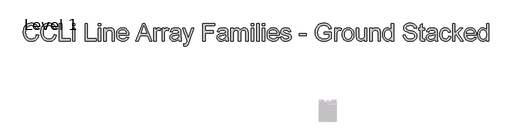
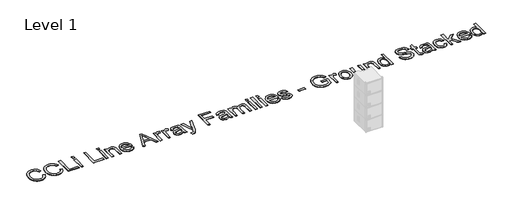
# One storey, part 18 of 31: 1 proxy.
"""IFC4 building model written with IfcOpenShell, lengths in millimetres."""

from ifc_helpers import new_model, si_unit, origin, origin_with_axes, place, context, project, spatial, polyline, outline, extrude, element, save

model = new_model("IFC4")

# Units and contexts
model_context = context("Model", 3, world=origin())
ifc_project = project(units=[si_unit("LENGTHUNIT", "METRE", prefix="MILLI")], contexts=[model_context])

# Site, building, storey
site = spatial("IfcSite", under=ifc_project)
building = spatial("IfcBuilding", under=site)
storey = spatial("IfcBuildingStorey", under=building, Name="Level 1", Elevation=0.0)

# Proxy
placement = place(None, origin())
element("IfcBuildingElementProxy", 1, Name="600mm Arial", ObjectType="600mm Arial", at=placement, inside=storey, context=model_context, shape_type="SweptSolid", body=[
    extrude(outline(polyline([(2002.9783305, -1457.1212893), (2078.3205631, -1476.5454586), (2063.4121452, -1523.3998292), (2043.5557146, -1564.3404968), (2018.751271, -1599.3674613), (1988.9988147, -1628.4807226), (1954.9697301, -1651.3675813), (1917.335402, -1667.7153374), (1876.0958304, -1677.5239911), (1831.2510151, -1680.7935424), (1785.3071525, -1678.3195359), (1743.8606472, -1670.8975167), (1706.9114993, -1658.5274846), (1674.4597088, -1641.2094397), (1646.0592188, -1619.2008993), (1621.2639723, -1592.7593809), (1600.0739694, -1561.8848845), (1582.48921, -1526.57741), (1568.6798396, -1488.3636677), (1558.8160036, -1448.770368), (1552.897702, -1407.7975108), (1550.9249348, -1365.4450961), (1553.1552194, -1320.0024726), (1559.8460732, -1277.5580874), (1570.9974962, -1238.1119405), (1586.6094884, -1201.6640318), (1606.3325618, -1168.8167682), (1629.8172287, -1140.1725563), (1657.063489, -1115.7313963), (1688.0713426, -1095.493288), (1721.7877275, -1079.6237785), (1757.1595813, -1068.2884145), (1794.1869041, -1061.4871961), (1832.8696959, -1059.2201233), (1875.9624731, -1062.1539822), (1915.4775979, -1070.955559), (1951.4150703, -1085.6248535), (1983.7748903, -1106.1618659), (2012.023629, -1132.0239702), (2035.6278576, -1162.6685404), (2054.5875759, -1198.0955765), (2068.902784, -1238.3050786), (1993.5605514, -1256.2577199), (1981.6963571, -1226.6294237), (1967.4409298, -1201.3145439), (1950.7942695, -1180.3130805), (1931.7563762, -1163.6250335), (1910.2168854, -1150.9101121), (1886.0654324, -1141.8280253), (1859.3020173, -1136.3787733), (1829.92664, -1134.5623559), (1796.1274817, -1136.5765098), (1765.216197, -1142.6189716), (1737.192786, -1152.6897412), (1712.0572487, -1166.7888187), (1690.1268833, -1184.2816076), (1671.7189879, -1204.5335114), (1656.8335627, -1227.5445302), (1645.4706076, -1253.314664), (1631.0680275, -1308.460175), (1626.2671674, -1365.2979433), (1631.9509443, -1434.9012168), (1639.0556653, -1466.1711864), (1649.0022747, -1495.0867112), (1661.951721, -1521.0729756), (1678.0649524, -1543.5551641), (1697.3419689, -1562.5332765), (1719.7827706, -1578.0073129), (1744.2975071, -1590.0140615), (1769.7963278, -1598.5903105), (1796.279233, -1603.7360599), (1823.7462224, -1605.4513097), (1856.5015156, -1603.1152591), (1886.6356495, -1596.1071071), (1914.1486242, -1584.4268537), (1939.0404397, -1568.074499), (1960.7224848, -1547.1236194), (1978.6061483, -1521.6477912), (1992.6914302, -1491.6470145), (2002.9783305, -1457.1212893)])), origin_with_axes(), (0.0, 0.0, 1.0), 5.0),
    extrude(outline(polyline([(2605.7161914, -1457.1212893), (2681.058424, -1476.5454586), (2666.1500061, -1523.3998292), (2646.2935755, -1564.3404968), (2621.4891319, -1599.3674613), (2591.7366756, -1628.4807226), (2557.707591, -1651.3675813), (2520.0732629, -1667.7153374), (2478.8336913, -1677.5239911), (2433.988876, -1680.7935424), (2388.0450134, -1678.3195359), (2346.5985081, -1670.8975167), (2309.6493602, -1658.5274846), (2277.1975697, -1641.2094397), (2248.7970797, -1619.2008993), (2224.0018332, -1592.7593809), (2202.8118303, -1561.8848845), (2185.2270709, -1526.57741), (2171.4177005, -1488.3636677), (2161.5538645, -1448.770368), (2155.6355629, -1407.7975108), (2153.6627957, -1365.4450961), (2155.8930803, -1320.0024726), (2162.5839341, -1277.5580874), (2173.7353571, -1238.1119405), (2189.3473492, -1201.6640318), (2209.0704227, -1168.8167682), (2232.5550896, -1140.1725563), (2259.8013499, -1115.7313963), (2290.8092035, -1095.493288), (2324.5255884, -1079.6237785), (2359.8974422, -1068.2884145), (2396.924765, -1061.4871961), (2435.6075568, -1059.2201233), (2478.700334, -1062.1539822), (2518.2154588, -1070.955559), (2554.1529312, -1085.6248535), (2586.5127512, -1106.1618659), (2614.7614899, -1132.0239702), (2638.3657185, -1162.6685404), (2657.3254368, -1198.0955765), (2671.6406449, -1238.3050786), (2596.2984123, -1256.2577199), (2584.434218, -1226.6294237), (2570.1787907, -1201.3145439), (2553.5321304, -1180.3130805), (2534.4942371, -1163.6250335), (2512.9547463, -1150.9101121), (2488.8032933, -1141.8280253), (2462.0398782, -1136.3787733), (2432.6645009, -1134.5623559), (2398.8653426, -1136.5765098), (2367.9540579, -1142.6189716), (2339.9306469, -1152.6897412), (2314.7951096, -1166.7888187), (2292.8647442, -1184.2816076), (2274.4568488, -1204.5335114), (2259.5714236, -1227.5445302), (2248.2084685, -1253.314664), (2233.8058884, -1308.460175), (2229.0050283, -1365.2979433), (2234.6888052, -1434.9012168), (2241.7935262, -1466.1711864), (2251.7401356, -1495.0867112), (2264.6895819, -1521.0729756), (2280.8028132, -1543.5551641), (2300.0798298, -1562.5332765), (2322.5206315, -1578.0073129), (2347.035368, -1590.0140615), (2372.5341887, -1598.5903105), (2399.0170939, -1603.7360599), (2426.4840833, -1605.4513097), (2459.2393765, -1603.1152591), (2489.3735104, -1596.1071071), (2516.8864851, -1584.4268537), (2541.7783006, -1568.074499), (2563.4603457, -1547.1236194), (2581.3440092, -1521.6477912), (2595.4292911, -1491.6470145), (2605.7161914, -1457.1212893)])), origin_with_axes(), (0.0, 0.0, 1.0), 5.0),
    extrude(outline(polyline([(2784.6539938, -1671.3757633), (2784.6539938, -1068.6379024), (2859.9962265, -1068.6379024), (2859.9962265, -1596.0335307), (3161.3651569, -1596.0335307), (3161.3651569, -1671.3757633), (2784.6539938, -1671.3757633)])), origin_with_axes(), (0.0, 0.0, 1.0), 5.0),
    extrude(outline(polyline([(3236.7073895, -1671.3757633), (3236.7073895, -1228.7401467), (3312.0496221, -1228.7401467), (3312.0496221, -1671.3757633), (3236.7073895, -1671.3757633)])), origin_with_axes(), (0.0, 0.0, 1.0), 5.0),
    extrude(outline(polyline([(3236.7073895, -1143.980135), (3236.7073895, -1068.6379024), (3312.0496221, -1068.6379024), (3312.0496221, -1143.980135), (3236.7073895, -1143.980135)])), origin_with_axes(), (0.0, 0.0, 1.0), 5.0),
    extrude(outline(polyline([(3669.925227, -1671.3757633), (3669.925227, -1068.6379024), (3745.2674596, -1068.6379024), (3745.2674596, -1596.0335307), (4046.6363901, -1596.0335307), (4046.6363901, -1671.3757633), (3669.925227, -1671.3757633)])), origin_with_axes(), (0.0, 0.0, 1.0), 5.0),
    extrude(outline(polyline([(4121.9786227, -1671.3757633), (4121.9786227, -1228.7401467), (4197.3208553, -1228.7401467), (4197.3208553, -1671.3757633), (4121.9786227, -1671.3757633)])), origin_with_axes(), (0.0, 0.0, 1.0), 5.0),
    extrude(outline(polyline([(4121.9786227, -1143.980135), (4121.9786227, -1068.6379024), (4197.3208553, -1068.6379024), (4197.3208553, -1143.980135), (4121.9786227, -1143.980135)])), origin_with_axes(), (0.0, 0.0, 1.0), 5.0),
    extrude(outline(polyline([(4310.3342042, -1671.3757633), (4310.3342042, -1228.7401467), (4385.6764369, -1228.7401467), (4385.6764369, -1290.5443219), (4411.8512408, -1259.3847169), (4443.2867573, -1237.1278562), (4479.9829863, -1223.7737398), (4521.9399279, -1219.3223676), (4559.0776153, -1222.9092171), (4593.0883057, -1233.6697654), (4621.4520076, -1250.2612434), (4641.6487291, -1271.3408817), (4655.3523334, -1296.8534981), (4664.2366836, -1326.7439102), (4668.2098091, -1399.5845452), (4668.2098091, -1671.3757633), (4592.8675765, -1671.3757633), (4592.8675765, -1409.7380883), (4590.6970728, -1370.779385), (4584.1855615, -1343.0778708), (4572.1742143, -1323.2306371), (4553.5042031, -1307.8347756), (4529.5734793, -1297.9571441), (4501.7799945, -1294.6646002), (4478.902333, -1296.5132072), (4457.6525492, -1302.0590283), (4438.0306433, -1311.3020635), (4420.0366152, -1324.2423126), (4405.0040372, -1342.3513038), (4394.2664814, -1367.1005651), (4387.823948, -1398.4900963), (4385.6764369, -1436.5198976), (4385.6764369, -1671.3757633), (4310.3342042, -1671.3757633)])), origin_with_axes(), (0.0, 0.0, 1.0), 5.0),
    extrude(outline(polyline([(5081.7091717, -1539.5268562), (5155.5798764, -1548.9446353), (5144.2537094, -1578.5315448), (5128.963614, -1604.6051812), (5109.7095901, -1627.1655445), (5086.4916377, -1646.2126348), (5059.54888, -1661.3417819), (5029.1204405, -1672.1483155), (4995.2063191, -1678.6322356), (4957.8065158, -1680.7935424), (4911.0579112, -1677.0641386), (4869.4044723, -1665.8759275), (4832.846199, -1647.2289088), (4801.3830914, -1621.1230827), (4776.0820072, -1588.2850161), (4758.0098042, -1549.441276), (4747.1664824, -1504.5918622), (4743.5520418, -1453.7367749), (4747.2032706, -1401.1572408), (4758.156957, -1354.8133064), (4776.413101, -1314.7049719), (4801.9717026, -1280.8322372), (4833.3520368, -1253.9216693), (4869.0733785, -1234.699835), (4909.1357278, -1223.1667345), (4953.5390846, -1219.3223676), (4996.5123002, -1223.1575374), (5035.3744344, -1234.6630468), (5070.1254874, -1253.8388958), (5100.7654591, -1280.6850844), (5125.7768362, -1314.4842427), (5143.6421056, -1354.5190008), (5154.3612673, -1400.7893588), (5157.9343211, -1453.2953165), (5157.4928627, -1473.6024027), (4818.8942744, -1473.6024027), (4823.2582745, -1503.6675587), (4831.9356911, -1529.9987125), (4844.9265241, -1552.5958641), (4862.2307734, -1571.4590134), (4882.891946, -1586.330643), (4905.9535485, -1596.9532357), (4931.4155811, -1603.3267912), (4959.2780437, -1605.4513097), (4999.3771812, -1601.5149724), (5033.1487484, -1589.7059604), (5060.5927452, -1569.2885096), (5081.7091717, -1539.5268562)]), holes=[polyline([(4818.8942744, -1398.2601701), (5082.5920885, -1398.2601701), (5072.4017572, -1358.4553382), (5063.6369687, -1342.8019593), (5052.4257649, -1329.9812718), (5031.8795555, -1314.530228), (5008.5006547, -1303.4937681), (4982.2890625, -1296.8718922), (4953.244779, -1294.6646002), (4926.7526768, -1296.4258353), (4902.4586696, -1301.7095404), (4880.3627572, -1310.5157157), (4860.4649398, -1322.8443611), (4843.7676958, -1338.1252594), (4831.2735035, -1355.7881937), (4822.982363, -1375.8331639), (4818.8942744, -1398.2601701)])]), origin_with_axes(), (0.0, 0.0, 1.0), 5.0),
    extrude(outline(polyline([(5408.0940778, -1671.3757633), (5648.6889027, -1068.6379024), (5712.8475227, -1068.6379024), (5953.2951947, -1671.3757633), (5873.6855309, -1671.3757633), (5804.8180214, -1483.0201818), (5556.4240983, -1483.0201818), (5487.5565888, -1671.3757633), (5408.0940778, -1671.3757633)]), holes=[polyline([(5584.0888243, -1407.6779491), (5777.3004482, -1407.6779491), (5722.8539129, -1259.4950815), (5680.6210599, -1143.980135), (5643.0970964, -1246.5456353), (5584.0888243, -1407.6779491)])]), origin_with_axes(), (0.0, 0.0, 1.0), 5.0),
    extrude(outline(polyline([(6024.3699962, -1671.3757633), (6024.3699962, -1228.7401467), (6090.2944497, -1228.7401467), (6090.2944497, -1294.2231418), (6114.6482378, -1256.2577199), (6137.0890395, -1233.8904946), (6159.6034176, -1222.9643994), (6184.1779349, -1219.3223676), (6221.7018984, -1225.1349031), (6259.8144731, -1242.5725097), (6234.6513446, -1310.115644), (6208.163841, -1298.5273612), (6181.6763373, -1294.6646002), (6159.1803533, -1298.3802084), (6139.0756023, -1309.5270328), (6122.8336122, -1327.258945), (6111.925911, -1350.7298163), (6102.7656493, -1392.8155165), (6099.7122288, -1438.7271895), (6099.7122288, -1671.3757633), (6024.3699962, -1671.3757633)])), origin_with_axes(), (0.0, 0.0, 1.0), 5.0),
    extrude(outline(polyline([(6306.9033685, -1671.3757633), (6306.9033685, -1228.7401467), (6372.827822, -1228.7401467), (6372.827822, -1294.2231418), (6397.1816101, -1256.2577199), (6419.6224118, -1233.8904946), (6442.1367899, -1222.9643994), (6466.7113072, -1219.3223676), (6504.2352707, -1225.1349031), (6542.3478454, -1242.5725097), (6517.1847169, -1310.115644), (6490.6972133, -1298.5273612), (6464.2097096, -1294.6646002), (6441.7137256, -1298.3802084), (6421.6089746, -1309.5270328), (6405.3669845, -1327.258945), (6394.4592833, -1350.7298163), (6385.2990216, -1392.8155165), (6382.2456011, -1438.7271895), (6382.2456011, -1671.3757633), (6306.9033685, -1671.3757633)])), origin_with_axes(), (0.0, 0.0, 1.0), 5.0),
    extrude(outline(polyline([(6871.9701131, -1614.8690888), (6835.9728598, -1645.7343882), (6798.9087488, -1665.9311098), (6759.9316514, -1677.0779342), (6718.1954391, -1680.7935424), (6684.6491996, -1678.5586592), (6655.2324356, -1671.8540099), (6629.945147, -1660.6795943), (6608.7873337, -1645.0354124), (6592.0808926, -1625.9147457), (6580.1477204, -1604.3108756), (6572.9878171, -1580.2238019), (6570.6011826, -1553.6535248), (6574.2064262, -1522.4203434), (6585.0221568, -1494.0566416), (6601.7056053, -1469.7764299), (6622.9140023, -1450.793719), (6647.8380075, -1436.4463212), (6675.6682804, -1426.0720489), (6740.85697, -1414.7412834), (6817.8914598, -1402.8219068), (6871.5286547, -1388.842391), (6871.9701131, -1372.066972), (6866.7829769, -1338.4425576), (6860.2990568, -1325.9897521), (6851.2215685, -1316.4432143), (6835.5314014, -1306.9150707), (6816.4199318, -1300.1092538), (6767.9330848, -1294.6646002), (6723.0514814, -1298.2882379), (6691.7079354, -1309.1591508), (6670.3339915, -1329.2639019), (6655.3611943, -1360.5890538), (6580.0189617, -1351.1712747), (6593.0971666, -1309.9684912), (6612.6133065, -1277.5948756), (6640.3883971, -1252.8364174), (6678.2434544, -1234.4791058), (6724.5414035, -1223.1115522), (6777.6451695, -1219.3223676), (6828.5784317, -1222.6700938), (6868.9534807, -1232.7132722), (6899.3957158, -1247.8148281), (6920.5305364, -1266.3376866), (6934.5468404, -1289.2383408), (6943.6335257, -1317.4732839), (6947.3123457, -1383.3977375), (6947.3123457, -1477.1340698), (6951.1383184, -1608.0264837), (6956.8037011, -1640.3817052), (6966.1479038, -1671.3757633), (6890.8056712, -1671.3757633), (6878.7391418, -1645.1825652), (6871.9701131, -1614.8690888)]), holes=[polyline([(6871.9701131, -1464.1846236), (6821.3495505, -1476.7293996), (6750.4219018, -1487.2876129), (6685.6010943, -1499.5012951), (6668.7337048, -1507.8522164), (6656.2441111, -1519.3669229), (6648.5185892, -1533.1624977), (6645.9434152, -1548.3560241), (6651.5536156, -1570.7600376), (6668.3842169, -1589.1173492), (6696.0673371, -1601.3678196), (6734.2350941, -1605.4513097), (6774.7021135, -1600.9447553), (6810.4602435, -1587.425092), (6839.4493447, -1567.5042819), (6859.609278, -1543.7942874), (6868.5488105, -1519.3669229), (6871.5286547, -1485.5217793), (6871.9701131, -1464.1846236)])]), origin_with_axes(), (0.0, 0.0, 1.0), 5.0),
    extrude(outline(polyline([(7050.9079155, -1840.8957867), (7041.4901364, -1768.3494572), (7079.7498639, -1774.9713331), (7099.8730091, -1772.8927999), (7115.5079939, -1766.6572), (7127.6848879, -1756.7059921), (7137.4337608, -1743.4806343), (7158.0351525, -1688.0040295), (7163.9212644, -1669.7570825), (7003.8190201, -1228.7401467), (7083.1343783, -1228.7401467), (7168.1886956, -1474.6324723), (7197.766408, -1572.9305414), (7227.3441204, -1485.9632377), (7314.6057297, -1228.7401467), (7393.3324766, -1228.7401467), (7239.263497, -1681.9707647), (7199.237936, -1780.2688339), (7178.7469088, -1811.649168), (7155.5335549, -1833.390994), (7128.6045929, -1846.0829228), (7096.9667413, -1850.3135657), (7075.0777626, -1847.959121), (7050.9079155, -1840.8957867)])), origin_with_axes(), (0.0, 0.0, 1.0), 5.0),
    extrude(outline(polyline([(7700.7346718, -1671.3757633), (7700.7346718, -1068.6379024), (8105.6991721, -1068.6379024), (8105.6991721, -1143.980135), (7776.0769044, -1143.980135), (7776.0769044, -1322.9179375), (8058.6102767, -1322.9179375), (8058.6102767, -1398.2601701), (7776.0769044, -1398.2601701), (7776.0769044, -1671.3757633), (7700.7346718, -1671.3757633)])), origin_with_axes(), (0.0, 0.0, 1.0), 5.0),
    extrude(outline(polyline([(8482.4103351, -1614.8690888), (8446.4130819, -1645.7343882), (8409.3489709, -1665.9311098), (8370.3718735, -1677.0779342), (8328.6356612, -1680.7935424), (8295.0894217, -1678.5586592), (8265.6726577, -1671.8540099), (8240.385369, -1660.6795943), (8219.2275558, -1645.0354124), (8202.5211147, -1625.9147457), (8190.5879425, -1604.3108756), (8183.4280391, -1580.2238019), (8181.0414047, -1553.6535248), (8184.6466482, -1522.4203434), (8195.4623789, -1494.0566416), (8212.1458274, -1469.7764299), (8233.3542244, -1450.793719), (8258.2782296, -1436.4463212), (8286.1085025, -1426.0720489), (8351.2971921, -1414.7412834), (8428.3316819, -1402.8219068), (8481.9688767, -1388.842391), (8482.4103351, -1372.066972), (8477.223199, -1338.4425576), (8470.7392788, -1325.9897521), (8461.6617906, -1316.4432143), (8445.9716235, -1306.9150707), (8426.8601539, -1300.1092538), (8378.3733069, -1294.6646002), (8333.4917035, -1298.2882379), (8302.1481575, -1309.1591508), (8280.7742136, -1329.2639019), (8265.8014164, -1360.5890538), (8190.4591838, -1351.1712747), (8203.5373887, -1309.9684912), (8223.0535285, -1277.5948756), (8250.8286192, -1252.8364174), (8288.6836765, -1234.4791058), (8334.9816256, -1223.1115522), (8388.0853916, -1219.3223676), (8439.0186538, -1222.6700938), (8479.3937028, -1232.7132722), (8509.8359379, -1247.8148281), (8530.9707585, -1266.3376866), (8544.9870625, -1289.2383408), (8554.0737478, -1317.4732839), (8557.7525678, -1383.3977375), (8557.7525678, -1477.1340698), (8561.5785405, -1608.0264837), (8567.2439232, -1640.3817052), (8576.5881259, -1671.3757633), (8501.2458933, -1671.3757633), (8489.1793639, -1645.1825652), (8482.4103351, -1614.8690888)]), holes=[polyline([(8482.4103351, -1464.1846236), (8431.7897726, -1476.7293996), (8360.8621239, -1487.2876129), (8296.0413164, -1499.5012951), (8279.1739269, -1507.8522164), (8266.6843332, -1519.3669229), (8258.9588113, -1533.1624977), (8256.3836373, -1548.3560241), (8261.9938377, -1570.7600376), (8278.824439, -1589.1173492), (8306.5075591, -1601.3678196), (8344.6753161, -1605.4513097), (8385.1423356, -1600.9447553), (8420.9004655, -1587.425092), (8449.8895668, -1567.5042819), (8470.0495001, -1543.7942874), (8478.9890326, -1519.3669229), (8481.9688767, -1485.5217793), (8482.4103351, -1464.1846236)])]), origin_with_axes(), (0.0, 0.0, 1.0), 5.0),
    extrude(outline(polyline([(8661.3481376, -1671.3757633), (8661.3481376, -1228.7401467), (8736.6903702, -1228.7401467), (8736.6903702, -1301.5807817), (8759.3519011, -1268.1219143), (8788.4881551, -1241.9103221), (8823.1058509, -1224.9693562), (8862.211707, -1219.3223676), (8904.1134662, -1225.0797208), (8921.9465459, -1232.2764124), (8937.7010924, -1242.3517805), (8962.7906444, -1269.9981124), (8979.1981814, -1306.8782825), (9006.6605724, -1268.5725697), (9037.9857243, -1241.2113463), (9073.1736371, -1224.7946123), (9112.2243109, -1219.3223676), (9142.386036, -1221.5986375), (9168.859744, -1228.427447), (9191.6454351, -1239.8087962), (9210.7431092, -1255.7426851), (9225.8400666, -1276.4130547), (9236.6236076, -1302.003846), (9243.0937321, -1332.515059), (9245.2504403, -1367.9466937), (9245.2504403, -1671.3757633), (9169.9082077, -1671.3757633), (9169.9082077, -1400.3203092), (9168.1607683, -1362.7411634), (9162.9184498, -1337.4124881), (9153.0960005, -1320.066852), (9137.6081686, -1306.4368241), (9117.6873585, -1297.6076562), (9094.5659751, -1294.6646002), (9073.2150238, -1296.5499954), (9053.7494678, -1302.2061811), (9036.1693069, -1311.6331573), (9020.4745413, -1324.8309238), (9007.5664818, -1342.1857569), (8998.3464393, -1364.0839327), (8992.8144138, -1390.5254511), (8990.9704053, -1421.5103122), (8990.9704053, -1671.3757633), (8915.6281727, -1671.3757633), (8915.6281727, -1391.9325997), (8911.268771, -1349.3318647), (8905.819519, -1332.611628), (8898.1905661, -1318.9448119), (8888.0784097, -1308.3222193), (8875.1795473, -1300.7346531), (8859.4939787, -1296.1821135), (8841.021704, -1294.6646002), (8811.9958146, -1298.7113022), (8785.2507936, -1310.851408), (8763.1778739, -1330.7906121), (8748.1682885, -1358.234609), (8739.5598498, -1396.3103955), (8736.6903702, -1448.1449686), (8736.6903702, -1671.3757633), (8661.3481376, -1671.3757633)])), origin_with_axes(), (0.0, 0.0, 1.0), 5.0),
    extrude(outline(polyline([(9358.2637893, -1143.980135), (9358.2637893, -1068.6379024), (9433.6060219, -1068.6379024), (9433.6060219, -1143.980135), (9358.2637893, -1143.980135)])), origin_with_axes(), (0.0, 0.0, 1.0), 5.0),
    extrude(outline(polyline([(9358.2637893, -1671.3757633), (9358.2637893, -1228.7401467), (9433.6060219, -1228.7401467), (9433.6060219, -1671.3757633), (9358.2637893, -1671.3757633)])), origin_with_axes(), (0.0, 0.0, 1.0), 5.0),
    extrude(outline(polyline([(9546.6193708, -1671.3757633), (9546.6193708, -1068.6379024), (9621.9616034, -1068.6379024), (9621.9616034, -1671.3757633), (9546.6193708, -1671.3757633)])), origin_with_axes(), (0.0, 0.0, 1.0), 5.0),
    extrude(outline(polyline([(9734.9749523, -1671.3757633), (9734.9749523, -1228.7401467), (9810.3171849, -1228.7401467), (9810.3171849, -1671.3757633), (9734.9749523, -1671.3757633)])), origin_with_axes(), (0.0, 0.0, 1.0), 5.0),
    extrude(outline(polyline([(9734.9749523, -1143.980135), (9734.9749523, -1068.6379024), (9810.3171849, -1068.6379024), (9810.3171849, -1143.980135), (9734.9749523, -1143.980135)])), origin_with_axes(), (0.0, 0.0, 1.0), 5.0),
    extrude(outline(polyline([(10233.2343266, -1539.5268562), (10307.1050312, -1548.9446353), (10295.7788643, -1578.5315448), (10280.4887689, -1604.6051812), (10261.2347449, -1627.1655445), (10238.0167925, -1646.2126348), (10211.0740349, -1661.3417819), (10180.6455954, -1672.1483155), (10146.7314739, -1678.6322356), (10109.3316706, -1680.7935424), (10062.5830661, -1677.0641386), (10020.9296272, -1665.8759275), (9984.3713539, -1647.2289088), (9952.9082463, -1621.1230827), (9927.607162, -1588.2850161), (9909.534959, -1549.441276), (9898.6916372, -1504.5918622), (9895.0771966, -1453.7367749), (9898.7284254, -1401.1572408), (9909.6821118, -1354.8133064), (9927.9382558, -1314.7049719), (9953.4968575, -1280.8322372), (9984.8771916, -1253.9216693), (10020.5985334, -1234.699835), (10060.6608826, -1223.1667345), (10105.0642395, -1219.3223676), (10148.037455, -1223.1575374), (10186.8995893, -1234.6630468), (10221.6506423, -1253.8388958), (10252.2906139, -1280.6850844), (10277.3019911, -1314.4842427), (10295.1672605, -1354.5190008), (10305.8864221, -1400.7893588), (10309.459476, -1453.2953165), (10309.0180176, -1473.6024027), (9970.4194292, -1473.6024027), (9974.7834294, -1503.6675587), (9983.460846, -1529.9987125), (9996.4516789, -1552.5958641), (10013.7559283, -1571.4590134), (10034.4171008, -1586.330643), (10057.4787034, -1596.9532357), (10082.940736, -1603.3267912), (10110.8031986, -1605.4513097), (10150.9023361, -1601.5149724), (10184.6739032, -1589.7059604), (10212.1179001, -1569.2885096), (10233.2343266, -1539.5268562)]), holes=[polyline([(9970.4194292, -1398.2601701), (10234.1172434, -1398.2601701), (10223.9269121, -1358.4553382), (10215.1621236, -1342.8019593), (10203.9509198, -1329.9812718), (10183.4047103, -1314.530228), (10160.0258095, -1303.4937681), (10133.8142174, -1296.8718922), (10104.7699339, -1294.6646002), (10078.2778317, -1296.4258353), (10053.9838244, -1301.7095404), (10031.8879121, -1310.5157157), (10011.9900947, -1322.8443611), (9995.2928506, -1338.1252594), (9982.7986584, -1355.7881937), (9974.5075179, -1375.8331639), (9970.4194292, -1398.2601701)])]), origin_with_axes(), (0.0, 0.0, 1.0), 5.0),
    extrude(outline(polyline([(10356.5483714, -1539.5268562), (10431.890604, -1530.1090771), (10436.4431437, -1547.2891663), (10443.7731924, -1562.3355399), (10453.8807502, -1575.2481979), (10466.7658171, -1586.0271404), (10482.4651813, -1594.5252145), (10501.0156309, -1600.5952674), (10546.6697865, -1605.4513097), (10591.7721191, -1600.9999376), (10609.3016962, -1595.4357224), (10623.4835471, -1587.6458212), (10642.2455288, -1568.2952282), (10646.9360243, -1557.4611035), (10648.4995227, -1545.8544265), (10646.9268272, -1535.6824894), (10642.2087406, -1526.6509864), (10623.3363943, -1512.009283), (10595.1198452, -1502.4443511), (10545.7868697, -1490.5249745), (10477.0297248, -1470.6409526), (10432.3320624, -1453.6631985), (10403.6188727, -1435.1403401), (10382.8151458, -1410.6210051), (10370.1783993, -1381.6686921), (10365.9661504, -1349.8468995), (10369.3506648, -1320.6554632), (10379.5042079, -1293.708107), (10395.5070747, -1270.0716888), (10416.4395602, -1250.8130664), (10437.243287, -1238.6913547), (10464.337796, -1228.5194175), (10495.6629478, -1221.6216301), (10529.1586035, -1219.3223676), (10578.1972735, -1223.0195817), (10620.8347967, -1234.1112238), (10655.1213987, -1251.5120422), (10679.1073047, -1274.1367849), (10694.9998069, -1303.659315), (10705.0061972, -1341.7534956), (10629.6639646, -1351.1712747), (10620.154215, -1327.4612801), (10601.337051, -1309.6006092), (10573.0285314, -1298.3986025), (10535.0447154, -1294.6646002), (10491.7817928, -1298.2330556), (10462.9398444, -1308.9384216), (10446.7162484, -1324.3894654), (10441.3083831, -1342.194954), (10443.5524632, -1353.7832368), (10450.2847037, -1364.1207209), (10461.7994102, -1373.354559), (10478.3908882, -1380.7489871), (10543.2852721, -1396.7886421), (10653.8705999, -1432.2524664), (10683.0804303, -1449.2118264), (10705.2269264, -1472.4251803), (10719.1880481, -1501.9661045), (10723.8417554, -1537.9081754), (10718.3787077, -1575.0642569), (10701.9895648, -1610.0130465), (10675.2997261, -1640.0138232), (10638.9345909, -1662.3258662), (10595.0094806, -1676.1766233), (10545.6397169, -1680.7935424), (10505.089924, -1678.5678563), (10469.6720849, -1671.8907981), (10439.3861996, -1660.7623677), (10414.2322682, -1645.1825652), (10393.6860588, -1625.224967), (10377.2233395, -1600.9631494), (10364.8441104, -1572.3971125), (10356.5483714, -1539.5268562)])), origin_with_axes(), (0.0, 0.0, 1.0), 5.0),
    extrude(outline(polyline([(11006.3751277, -1492.4379608), (11006.3751277, -1417.0957282), (11241.8196046, -1417.0957282), (11241.8196046, -1492.4379608), (11006.3751277, -1492.4379608)])), origin_with_axes(), (0.0, 0.0, 1.0), 5.0),
    extrude(outline(polyline([(11853.9752445, -1435.9312864), (11853.9752445, -1360.5890538), (12098.8375005, -1360.5890538), (12098.8375005, -1585.8799876), (12039.3325878, -1627.2667121), (11977.9514769, -1656.9547891), (11914.8413206, -1674.833854), (11850.1492718, -1680.7935424), (11806.8725536, -1678.425302), (11765.6283834, -1671.320581), (11726.4167612, -1659.4793793), (11689.2376871, -1642.9016969), (11655.291376, -1621.8358541), (11625.7780429, -1596.5301714), (11600.6976879, -1566.9846486), (11580.0503109, -1533.1992859), (11563.923284, -1496.2547365), (11552.403979, -1457.2316539), (11545.492396, -1416.130038), (11543.188535, -1372.9498888), (11545.483199, -1329.7651411), (11552.3671908, -1288.0611184), (11563.8405105, -1247.8378208), (11579.9031581, -1209.0952481), (11600.2700251, -1173.5348548), (11624.6560028, -1142.8580949), (11653.0610914, -1117.0649685), (11685.4852907, -1096.1554756), (11721.2250266, -1079.996259), (11759.5767246, -1068.4539614), (11800.5403847, -1061.5285828), (11844.1160071, -1059.2201233), (11906.1776997, -1064.5728063), (11961.9853983, -1080.6308554), (11986.904805, -1092.3846852), (12008.9823232, -1106.2354423), (12028.217953, -1122.1831268), (12044.6116944, -1140.2277386), (12070.9704394, -1184.2448194), (12090.1554854, -1239.9237593), (12020.6993648, -1259.4950815), (12005.1931387, -1219.7822201), (11986.3391864, -1189.8182316), (11961.3967871, -1167.2302771), (11927.62522, -1149.6455177), (11887.3605356, -1138.3331464), (11842.9387847, -1134.5623559), (11790.9386647, -1138.627452), (11746.4801255, -1150.8227401), (11709.7287142, -1169.6215101), (11680.8499776, -1193.4970515), (11658.6850874, -1221.2169599), (11642.0752153, -1251.5488304), (11624.4168795, -1308.4233868), (11618.5307676, -1369.85968), (11620.3011997, -1407.4802126), (11625.612496, -1441.9093688), (11634.4646565, -1473.1471487), (11646.8576813, -1501.1935523), (11662.6306218, -1525.9428135), (11681.6225298, -1547.2891663), (11703.8334053, -1565.2326106), (11729.2632482, -1579.7731465), (11756.7210406, -1591.0073429), (11785.0157645, -1599.0317689), (11814.14742, -1603.8464245), (11844.1160071, -1605.4513097), (11896.3000681, -1600.6136615), (11947.1965421, -1586.1007168), (11991.3975638, -1566.1063304), (12023.4952679, -1544.8243569), (12023.4952679, -1435.9312864), (11853.9752445, -1435.9312864)])), origin_with_axes(), (0.0, 0.0, 1.0), 5.0),
    extrude(outline(polyline([(12211.8508494, -1671.3757633), (12211.8508494, -1228.7401467), (12277.775303, -1228.7401467), (12277.775303, -1294.2231418), (12302.1290911, -1256.2577199), (12324.5698928, -1233.8904946), (12347.0842709, -1222.9643994), (12371.6587882, -1219.3223676), (12409.1827517, -1225.1349031), (12447.2953264, -1242.5725097), (12422.1321979, -1310.115644), (12395.6446942, -1298.5273612), (12369.1571906, -1294.6646002), (12346.6612066, -1298.3802084), (12326.5564555, -1309.5270328), (12310.3144655, -1327.258945), (12299.4067643, -1350.7298163), (12290.2465026, -1392.8155165), (12287.1930821, -1438.7271895), (12287.1930821, -1671.3757633), (12211.8508494, -1671.3757633)])), origin_with_axes(), (0.0, 0.0, 1.0), 5.0),
    extrude(outline(polyline([(12475.5486636, -1450.057955), (12479.6229567, -1392.7327431), (12491.845836, -1343.3353882), (12512.2173015, -1301.8658903), (12540.7373531, -1268.3242494), (12569.4505429, -1246.8859261), (12601.1435767, -1231.572838), (12635.8164548, -1222.3849852), (12673.469177, -1219.3223676), (12715.0352439, -1223.0517713), (12752.6189883, -1234.2399825), (12786.22041, -1252.8870011), (12815.8395091, -1278.9928272), (12840.0139547, -1311.674544), (12857.2814159, -1350.0492346), (12867.6418926, -1394.1168991), (12871.0953848, -1443.8775375), (12869.5686745, -1484.2066012), (12864.9885437, -1519.9923223), (12857.3549923, -1551.2347007), (12846.6680203, -1577.9337365), (12833.060985, -1600.9953391), (12816.6672436, -1621.3254178), (12797.4867961, -1638.9239728), (12775.5196425, -1653.7910039), (12751.6211083, -1665.6046145), (12726.6465194, -1674.0429077), (12700.5958756, -1679.1058837), (12673.469177, -1680.7935424), (12631.2961048, -1677.0779342), (12593.3628725, -1665.9311098), (12559.6694803, -1647.353069), (12530.2159281, -1621.3438119), (12506.2989999, -1588.344797), (12489.2154797, -1548.7974825), (12478.9653676, -1502.7018685), (12475.5486636, -1450.057955)]), holes=[polyline([(12550.8908962, -1449.9108022), (12553.070597, -1486.4552799), (12559.6096995, -1518.09773), (12570.5082036, -1544.8381525), (12585.7661093, -1566.6765475), (12604.325756, -1583.640506), (12625.1294828, -1595.7576192), (12648.1772898, -1603.0278871), (12673.469177, -1605.4513097), (12698.6323055, -1603.0140915), (12721.588142, -1595.7024369), (12742.3366865, -1583.5163458), (12760.877939, -1566.4558183), (12776.1358448, -1544.4012926), (12787.0343489, -1517.2332073), (12793.5734514, -1484.9515622), (12795.7531522, -1447.5563574), (12793.5596558, -1412.170708), (12786.9791666, -1381.3559924), (12776.0116846, -1355.1122106), (12760.6572099, -1333.4393625), (12742.0469794, -1316.475404), (12721.3122305, -1304.3582908), (12698.452963, -1297.0880229), (12673.469177, -1294.6646002), (12648.1772898, -1297.0788258), (12625.1294828, -1304.3215026), (12604.325756, -1316.3926306), (12585.7661093, -1333.2922097), (12570.5082036, -1355.0662253), (12559.6096995, -1381.7606626), (12553.070597, -1413.3755215), (12550.8908962, -1449.9108022)])]), origin_with_axes(), (0.0, 0.0, 1.0), 5.0),
    extrude(outline(polyline([(13238.3887688, -1671.3757633), (13238.3887688, -1595.2977667), (13211.1287129, -1632.7021685), (13179.3804968, -1659.4195984), (13143.1441202, -1675.4500564), (13102.4195834, -1680.7935424), (13065.7233544, -1677.041146), (13031.5655111, -1665.783957), (13002.9075037, -1648.8613852), (12982.7107821, -1628.1128407), (12969.1175424, -1602.912924), (12960.2699804, -1572.6362358), (12955.8553965, -1502.5915039), (12955.8553965, -1228.7401467), (13031.1976291, -1228.7401467), (13031.1976291, -1467.1276796), (13032.3380633, -1514.8051861), (13035.7593658, -1543.9414402), (13046.7406434, -1569.5644211), (13065.5578075, -1589.0437728), (13090.9600592, -1601.3494255), (13121.6965999, -1605.4513097), (13154.1989742, -1601.257455), (13184.6044211, -1588.6758908), (13209.6755791, -1568.8654453), (13226.1750865, -1542.984947), (13235.3353482, -1507.5395167), (13238.3887688, -1459.0342757), (13238.3887688, -1228.7401467), (13313.7310014, -1228.7401467), (13313.7310014, -1671.3757633), (13238.3887688, -1671.3757633)])), origin_with_axes(), (0.0, 0.0, 1.0), 5.0),
    extrude(outline(polyline([(13417.3265712, -1671.3757633), (13417.3265712, -1228.7401467), (13492.6688039, -1228.7401467), (13492.6688039, -1290.5443219), (13518.8436078, -1259.3847169), (13550.2791243, -1237.1278562), (13586.9753533, -1223.7737398), (13628.9322949, -1219.3223676), (13666.0699823, -1222.9092171), (13700.0806727, -1233.6697654), (13728.4443746, -1250.2612434), (13748.6410961, -1271.3408817), (13762.3447004, -1296.8534981), (13771.2290506, -1326.7439102), (13775.2021761, -1399.5845452), (13775.2021761, -1671.3757633), (13699.8599435, -1671.3757633), (13699.8599435, -1409.7380883), (13697.6894398, -1370.779385), (13691.1779285, -1343.0778708), (13679.1665813, -1323.2306371), (13660.4965701, -1307.8347756), (13636.5658463, -1297.9571441), (13608.7723615, -1294.6646002), (13585.8947, -1296.5132072), (13564.6449162, -1302.0590283), (13545.0230103, -1311.3020635), (13527.0289822, -1324.2423126), (13511.9964042, -1342.3513038), (13501.2588484, -1367.1005651), (13494.816315, -1398.4900963), (13492.6688039, -1436.5198976), (13492.6688039, -1671.3757633), (13417.3265712, -1671.3757633)])), origin_with_axes(), (0.0, 0.0, 1.0), 5.0),
    extrude(outline(polyline([(14151.9133392, -1671.3757633), (14151.9133392, -1600.3009618), (14129.37137, -1635.5164658), (14102.0653289, -1660.6703972), (14069.9952159, -1675.7627561), (14033.1610312, -1680.7935424), (14008.2922083, -1678.9725265), (13984.453455, -1673.5094789), (13961.6447713, -1664.4043995), (13939.8661572, -1651.6572883), (13919.7981944, -1635.649823), (13902.1214645, -1616.7636811), (13886.8359676, -1594.9988626), (13873.9417037, -1570.3553674), (13863.7053871, -1543.3022452), (13856.3937325, -1514.3085454), (13850.5444088, -1450.4994134), (13855.93388, -1387.4812276), (13872.1022937, -1330.569883), (13884.2240054, -1305.2136164), (13899.0312557, -1283.002741), (13916.5240446, -1263.9372566), (13936.702372, -1248.0171632), (13958.8534667, -1235.4631901), (13982.2645571, -1226.4960665), (14006.9356434, -1221.1157923), (14032.8667256, -1219.3223676), (14069.7285015, -1224.4543214), (14102.3228463, -1239.8501829), (14129.9507841, -1263.4498129), (14151.9133392, -1293.1930722), (14151.9133392, -1068.6379024), (14227.2555718, -1068.6379024), (14227.2555718, -1671.3757633), (14151.9133392, -1671.3757633)]), holes=[polyline([(13925.8866414, -1450.2051078), (13928.0111599, -1486.7403884), (13934.3847155, -1518.3552474), (13945.0073081, -1545.0496847), (13959.8789377, -1566.8237003), (13977.638441, -1583.7232794), (13996.9246546, -1595.7944074), (14017.7375785, -1603.0370842), (14040.0772127, -1605.4513097), (14062.5226129, -1603.1474488), (14083.2113766, -1596.2358658), (14102.1435038, -1584.7165608), (14119.3189944, -1568.5895338), (14133.5790203, -1547.7260262), (14143.764753, -1521.9972791), (14149.8761927, -1491.4032927), (14151.9133392, -1455.9440669), (14149.8394045, -1417.0681371), (14143.6176002, -1383.7288313), (14133.2479265, -1355.9261495), (14118.7303832, -1333.6600917), (14101.1778136, -1316.5995642), (14081.7030604, -1304.4134731), (14060.3061239, -1297.1018184), (14036.9870039, -1294.6646002), (14014.2059114, -1297.0052494), (13993.3929875, -1304.027197), (13974.5482323, -1315.730443), (13957.6716458, -1332.1149873), (13943.7657063, -1353.539515), (13933.8328925, -1380.362711), (13927.8732041, -1412.5845753), (13925.8866414, -1450.2051078)])]), origin_with_axes(), (0.0, 0.0, 1.0), 5.0),
    extrude(outline(polyline([(14556.8778395, -1464.1846236), (14632.2200721, -1464.1846236), (14640.865299, -1505.9944124), (14656.5002838, -1539.6004326), (14680.8908601, -1566.2718773), (14715.8028614, -1587.2779392), (14758.4771729, -1600.9079671), (14806.1546794, -1605.4513097), (14848.1300151, -1602.0116131), (14884.8814264, -1591.6925231), (14914.6614739, -1575.3585625), (14935.7227181, -1553.874254), (14948.2491001, -1529.2077662), (14952.4245607, -1503.3272679), (14949.2975638, -1478.1089571), (14939.9165729, -1456.3119489), (14920.8602855, -1437.715514), (14888.7073992, -1422.0989234), (14779.0049882, -1393.3305513), (14706.9920876, -1374.2926581), (14660.9148677, -1356.1744698), (14623.4092983, -1330.8274003), (14596.8298242, -1300.1092538), (14580.9925043, -1264.6822176), (14575.7133977, -1225.2084795), (14577.345874, -1202.7722764), (14582.2433031, -1181.0810342), (14590.4056848, -1160.1347531), (14601.8330193, -1139.9334331), (14616.3965478, -1121.30021), (14633.9675116, -1105.0582199), (14654.5459107, -1091.2074628), (14678.1317451, -1079.7479386), (14731.1435406, -1064.3520771), (14789.8207188, -1059.2201233), (14853.3907276, -1064.5912004), (14909.0144853, -1080.7044318), (14933.3498793, -1092.7065819), (14954.7054291, -1107.2287237), (14973.0811347, -1124.2708571), (14988.4769962, -1143.8329822), (15000.7734519, -1165.3448819), (15009.8509402, -1188.236339), (15015.7094609, -1212.5073536), (15018.3490143, -1238.1579258), (14943.0067816, -1238.1579258), (14937.9667983, -1214.1168374), (14929.1744186, -1193.202746), (14916.6296426, -1175.4156515), (14900.3324702, -1160.755554), (14879.9793988, -1149.2960298), (14855.2669258, -1141.1106554), (14826.1950511, -1136.1994308), (14792.7637748, -1134.5623559), (14758.2656407, -1136.1810367), (14728.7890958, -1141.037079), (14704.3341402, -1149.1304829), (14684.9007738, -1160.4612484), (14670.0935235, -1174.0820793), (14659.5169162, -1189.0456794), (14653.1709517, -1205.3520488), (14651.0556303, -1223.0011876), (14652.5547494, -1238.1855169), (14657.0521068, -1251.9535006), (14664.5477024, -1264.3051386), (14675.0415364, -1275.2404309), (14691.5594379, -1285.596309), (14717.568695, -1296.0625518), (14798.0612755, -1317.3261311), (14881.1290301, -1337.5228527), (14931.3817106, -1355.1444002), (14974.3319335, -1382.4780325), (14990.9372071, -1398.5452786), (15004.295922, -1416.2128114), (15014.5644282, -1435.3886604), (15021.8990755, -1455.9808551), (15027.7667933, -1501.4142815), (15026.0791347, -1524.9817218), (15021.0161587, -1547.8593834), (15012.5778655, -1570.0472662), (15000.7642549, -1591.5453703), (14985.7822606, -1611.5213627), (14967.8388163, -1629.1429102), (14946.9339219, -1644.410013), (14923.0675775, -1657.3226711), (14896.9341603, -1667.5911773), (14869.2280475, -1674.9258245), (14809.0977354, -1680.7935424), (14770.5574979, -1679.2116498), (14735.2822131, -1674.465972), (14703.271881, -1666.5565091), (14674.5265016, -1655.4832611), (14648.8713309, -1641.2278338), (14626.1316251, -1623.7718331), (14606.3073841, -1603.1152591), (14589.3986079, -1579.2581117), (14575.777777, -1552.9729431), (14565.817372, -1525.0323056), (14559.5173928, -1495.4361991), (14556.8778395, -1464.1846236)])), origin_with_axes(), (0.0, 0.0, 1.0), 5.0),
    extrude(outline(polyline([(15291.4646075, -1608.5415185), (15300.8823865, -1673.5830553), (15244.5228649, -1680.7935424), (15208.3600648, -1677.6665454), (15181.3943145, -1668.2855545), (15162.3380272, -1653.8277921), (15149.9036157, -1635.4704806), (15143.0610106, -1603.9429936), (15140.7801422, -1549.9747049), (15140.7801422, -1304.0823793), (15084.2734678, -1304.0823793), (15084.2734678, -1228.7401467), (15140.7801422, -1228.7401467), (15140.7801422, -1121.1714513), (15216.1223749, -1076.8784591), (15216.1223749, -1228.7401467), (15291.4646075, -1228.7401467), (15291.4646075, -1304.0823793), (15216.1223749, -1304.0823793), (15216.1223749, -1547.7674129), (15220.0955004, -1586.6157516), (15232.9713702, -1600.3745382), (15243.8422832, -1604.1821169), (15258.6495335, -1605.4513097), (15291.4646075, -1608.5415185)])), origin_with_axes(), (0.0, 0.0, 1.0), 5.0),
    extrude(outline(polyline([(15649.3402124, -1614.8690888), (15613.3429592, -1645.7343882), (15576.2788481, -1665.9311098), (15537.3017507, -1677.0779342), (15495.5655384, -1680.7935424), (15462.019299, -1678.5586592), (15432.6025349, -1671.8540099), (15407.3152463, -1660.6795943), (15386.157433, -1645.0354124), (15369.4509919, -1625.9147457), (15357.5178197, -1604.3108756), (15350.3579164, -1580.2238019), (15347.9712819, -1553.6535248), (15351.5765255, -1522.4203434), (15362.3922561, -1494.0566416), (15379.0757046, -1469.7764299), (15400.2841016, -1450.793719), (15425.2081068, -1436.4463212), (15453.0383798, -1426.0720489), (15518.2270693, -1414.7412834), (15595.2615591, -1402.8219068), (15648.898754, -1388.842391), (15649.3402124, -1372.066972), (15644.1530762, -1338.4425576), (15637.6691561, -1325.9897521), (15628.5916679, -1316.4432143), (15612.9015008, -1306.9150707), (15593.7900311, -1300.1092538), (15545.3031841, -1294.6646002), (15500.4215807, -1298.2882379), (15469.0780347, -1309.1591508), (15447.7040908, -1329.2639019), (15432.7312936, -1360.5890538), (15357.389061, -1351.1712747), (15370.4672659, -1309.9684912), (15389.9834058, -1277.5948756), (15417.7584964, -1252.8364174), (15455.6135537, -1234.4791058), (15501.9115028, -1223.1115522), (15555.0152688, -1219.3223676), (15605.948531, -1222.6700938), (15646.32358, -1232.7132722), (15676.7658151, -1247.8148281), (15697.9006357, -1266.3376866), (15711.9169398, -1289.2383408), (15721.003625, -1317.4732839), (15724.682445, -1383.3977375), (15724.682445, -1477.1340698), (15728.5084177, -1608.0264837), (15734.1738005, -1640.3817052), (15743.5180031, -1671.3757633), (15668.1757705, -1671.3757633), (15656.1092411, -1645.1825652), (15649.3402124, -1614.8690888)]), holes=[polyline([(15649.3402124, -1464.1846236), (15598.7196498, -1476.7293996), (15527.7920012, -1487.2876129), (15462.9711936, -1499.5012951), (15446.1038041, -1507.8522164), (15433.6142104, -1519.3669229), (15425.8886885, -1533.1624977), (15423.3135145, -1548.3560241), (15428.923715, -1570.7600376), (15445.7543162, -1589.1173492), (15473.4374364, -1601.3678196), (15511.6051934, -1605.4513097), (15552.0722129, -1600.9447553), (15587.8303428, -1587.425092), (15616.819444, -1567.5042819), (15636.9793773, -1543.7942874), (15645.9189098, -1519.3669229), (15648.898754, -1485.5217793), (15649.3402124, -1464.1846236)])]), origin_with_axes(), (0.0, 0.0, 1.0), 5.0),
    extrude(outline(polyline([(16110.8113871, -1511.273519), (16186.1536197, -1520.6912981), (16177.9590483, -1556.2424944), (16165.1475578, -1587.7010035), (16147.7191483, -1615.0668254), (16125.6738197, -1638.3399601), (16099.9404742, -1656.9134023), (16071.4480136, -1670.1801468), (16040.1964382, -1678.1401935), (16006.1857477, -1680.7935424), (15963.929902, -1677.0917298), (15926.0426551, -1665.9862921), (15892.5240068, -1647.4772292), (15863.3739572, -1621.5645411), (15839.7789257, -1588.7356716), (15822.9253318, -1549.4780642), (15812.8131755, -1503.7917189), (15809.4424567, -1451.6766358), (15815.1998099, -1384.6301421), (15822.3965014, -1354.45922), (15832.4718696, -1326.523181), (15845.4948922, -1301.3830452), (15861.5345472, -1279.5998325), (15880.5908345, -1261.1735431), (15902.6637543, -1246.1041769), (15926.7554264, -1234.3871353), (15951.8679711, -1226.0178199), (15978.0013883, -1220.9962307), (16005.1556781, -1219.3223676), (16038.5823559, -1221.6216301), (16068.8176574, -1228.5194175), (16095.8615825, -1240.0157298), (16119.7141314, -1256.1105671), (16139.9706338, -1276.4360474), (16156.2264194, -1300.6242885), (16168.4814884, -1328.6752907), (16176.7358407, -1360.5890538), (16101.3936081, -1370.0068328), (16087.7267919, -1337.1365766), (16066.4448185, -1313.5737348), (16038.7249102, -1299.3918839), (16005.7442893, -1294.6646002), (15980.144301, -1296.9914538), (15957.0551072, -1303.9720147), (15936.4767081, -1315.6062828), (15918.4091037, -1331.8942581), (15903.6984224, -1353.2130198), (15893.1907929, -1379.9396467), (15886.8862152, -1412.074139), (15884.7846893, -1449.6164966), (15886.8402299, -1487.7244728), (15893.0068519, -1520.2314456), (15903.2845551, -1547.137415), (15917.6733397, -1568.442381), (15935.3822592, -1584.6337873), (15955.6203675, -1596.1990776), (15978.3876644, -1603.1382517), (16003.6841501, -1605.4513097), (16042.6980357, -1599.6755624), (16059.5700237, -1592.4558783), (16074.6853752, -1582.3483205), (16087.6210259, -1569.2425244), (16097.9539114, -1553.0281254), (16105.6840318, -1533.7051236), (16110.8113871, -1511.273519)])), origin_with_axes(), (0.0, 0.0, 1.0), 5.0),
    extrude(outline(polyline([(16252.0780733, -1671.3757633), (16252.0780733, -1068.6379024), (16327.4203059, -1068.6379024), (16327.4203059, -1392.5212109), (16496.3517181, -1228.7401467), (16600.5358991, -1228.7401467), (16429.397195, -1394.5813501), (16609.9536782, -1671.3757633), (16521.9563049, -1671.3757633), (16375.3921181, -1446.9677462), (16327.4203059, -1493.6151832), (16327.4203059, -1671.3757633), (16252.0780733, -1671.3757633)])), origin_with_axes(), (0.0, 0.0, 1.0), 5.0),
    extrude(outline(polyline([(16985.7819245, -1539.5268562), (17059.6526291, -1548.9446353), (17048.3264622, -1578.5315448), (17033.0363667, -1604.6051812), (17013.7823428, -1627.1655445), (16990.5643904, -1646.2126348), (16963.6216328, -1661.3417819), (16933.1931932, -1672.1483155), (16899.2790718, -1678.6322356), (16861.8792685, -1680.7935424), (16815.1306639, -1677.0641386), (16773.477225, -1665.8759275), (16736.9189518, -1647.2289088), (16705.4558441, -1621.1230827), (16680.1547599, -1588.2850161), (16662.0825569, -1549.441276), (16651.2392351, -1504.5918622), (16647.6247945, -1453.7367749), (16651.2760233, -1401.1572408), (16662.2297097, -1354.8133064), (16680.4858537, -1314.7049719), (16706.0444553, -1280.8322372), (16737.4247895, -1253.9216693), (16773.1461312, -1234.699835), (16813.2084805, -1223.1667345), (16857.6118373, -1219.3223676), (16900.5850529, -1223.1575374), (16939.4471872, -1234.6630468), (16974.1982401, -1253.8388958), (17004.8382118, -1280.6850844), (17029.849589, -1314.4842427), (17047.7148583, -1354.5190008), (17058.43402, -1400.7893588), (17062.0070739, -1453.2953165), (17061.5656155, -1473.6024027), (16722.9670271, -1473.6024027), (16727.3310273, -1503.6675587), (16736.0084438, -1529.9987125), (16748.9992768, -1552.5958641), (16766.3035261, -1571.4590134), (16786.9646987, -1586.330643), (16810.0263013, -1596.9532357), (16835.4883339, -1603.3267912), (16863.3507965, -1605.4513097), (16903.4499339, -1601.5149724), (16937.2215011, -1589.7059604), (16964.6654979, -1569.2885096), (16985.7819245, -1539.5268562)]), holes=[polyline([(16722.9670271, -1398.2601701), (16986.6648412, -1398.2601701), (16976.47451, -1358.4553382), (16967.7097214, -1342.8019593), (16956.4985176, -1329.9812718), (16935.9523082, -1314.530228), (16912.5734074, -1303.4937681), (16886.3618153, -1296.8718922), (16857.3175317, -1294.6646002), (16830.8254296, -1296.4258353), (16806.5314223, -1301.7095404), (16784.43551, -1310.5157157), (16764.5376926, -1322.8443611), (16747.8404485, -1338.1252594), (16735.3462562, -1355.7881937), (16727.0551158, -1375.8331639), (16722.9670271, -1398.2601701)])]), origin_with_axes(), (0.0, 0.0, 1.0), 5.0),
    extrude(outline(polyline([(17410.4648997, -1671.3757633), (17410.4648997, -1600.3009618), (17387.9229304, -1635.5164658), (17360.6168893, -1660.6703972), (17328.5467764, -1675.7627561), (17291.7125916, -1680.7935424), (17266.8437688, -1678.9725265), (17243.0050155, -1673.5094789), (17220.1963318, -1664.4043995), (17198.4177177, -1651.6572883), (17178.3497548, -1635.649823), (17160.673025, -1616.7636811), (17145.3875281, -1594.9988626), (17132.4932641, -1570.3553674), (17122.2569476, -1543.3022452), (17114.945293, -1514.3085454), (17109.0959692, -1450.4994134), (17114.4854405, -1387.4812276), (17130.6538542, -1330.569883), (17142.7755659, -1305.2136164), (17157.5828162, -1283.002741), (17175.0756051, -1263.9372566), (17195.2539325, -1248.0171632), (17217.4050271, -1235.4631901), (17240.8161176, -1226.4960665), (17265.4872039, -1221.1157923), (17291.418286, -1219.3223676), (17328.280062, -1224.4543214), (17360.8744067, -1239.8501829), (17388.5023446, -1263.4498129), (17410.4648997, -1293.1930722), (17410.4648997, -1068.6379024), (17485.8071323, -1068.6379024), (17485.8071323, -1671.3757633), (17410.4648997, -1671.3757633)]), holes=[polyline([(17184.4382019, -1450.2051078), (17186.5627204, -1486.7403884), (17192.9362759, -1518.3552474), (17203.5588686, -1545.0496847), (17218.4304982, -1566.8237003), (17236.1900015, -1583.7232794), (17255.4762151, -1595.7944074), (17276.289139, -1603.0370842), (17298.6287732, -1605.4513097), (17321.0741734, -1603.1474488), (17341.7629371, -1596.2358658), (17360.6950643, -1584.7165608), (17377.8705549, -1568.5895338), (17392.1305808, -1547.7260262), (17402.3163135, -1521.9972791), (17408.4277531, -1491.4032927), (17410.4648997, -1455.9440669), (17408.3909649, -1417.0681371), (17402.1691607, -1383.7288313), (17391.799487, -1355.9261495), (17377.2819437, -1333.6600917), (17359.729374, -1316.5995642), (17340.2546209, -1304.4134731), (17318.8576844, -1297.1018184), (17295.5385644, -1294.6646002), (17272.7574718, -1297.0052494), (17251.944548, -1304.027197), (17233.0997928, -1315.730443), (17216.2232062, -1332.1149873), (17202.3172668, -1353.539515), (17192.3844529, -1380.362711), (17186.4247646, -1412.5845753), (17184.4382019, -1450.2051078)])]), origin_with_axes(), (0.0, 0.0, 1.0), 5.0),
])

save(model, "model.ifc")
